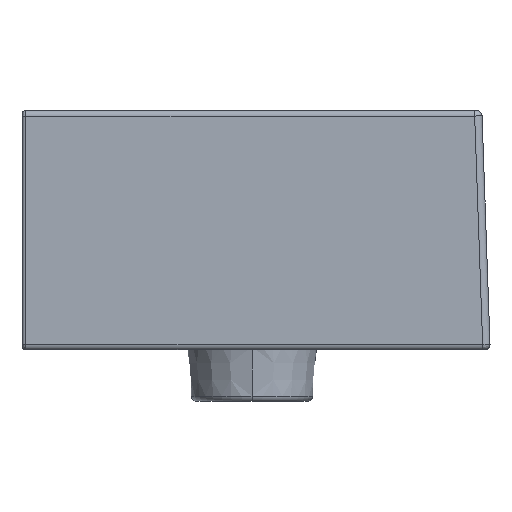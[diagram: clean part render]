
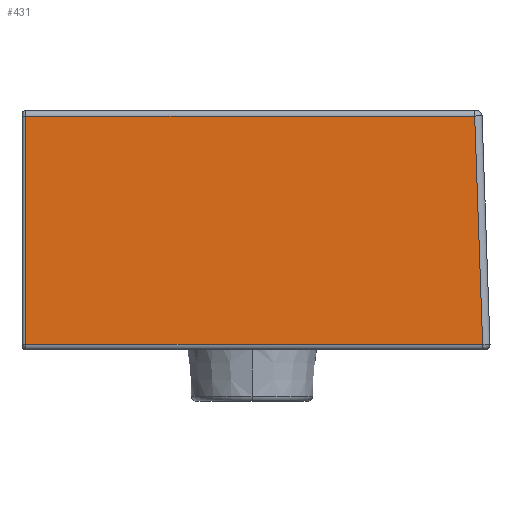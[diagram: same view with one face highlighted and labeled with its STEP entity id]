
A CAD part, left-side view. The second image highlights one B-rep face of the part: STEP entity #431.
In plain terms, the highlighted planar face has unit normal (-1, 0, 0.018).
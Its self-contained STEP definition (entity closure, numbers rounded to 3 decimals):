
#431=ADVANCED_FACE('',(#777),#727,.T.);
#727=PLANE('',#5154);
#777=FACE_OUTER_BOUND('',#1109,.T.);
#1109=EDGE_LOOP('',(#2437,#2438,#2439,#2440));
#2437=ORIENTED_EDGE('',*,*,#4418,.T.);
#2438=ORIENTED_EDGE('',*,*,#4419,.T.);
#2439=ORIENTED_EDGE('',*,*,#4420,.T.);
#2440=ORIENTED_EDGE('',*,*,#4421,.T.);
#3904=VERTEX_POINT('',#11568);
#3905=VERTEX_POINT('',#11569);
#3906=VERTEX_POINT('',#11571);
#3907=VERTEX_POINT('',#11573);
#4418=EDGE_CURVE('',#3904,#3905,#4966,.T.);
#4419=EDGE_CURVE('',#3905,#3906,#4967,.T.);
#4420=EDGE_CURVE('',#3906,#3907,#4968,.T.);
#4421=EDGE_CURVE('',#3907,#3904,#4969,.T.);
#4966=LINE('',#11567,#5059);
#4967=LINE('',#11570,#5060);
#4968=LINE('',#11572,#5061);
#4969=LINE('',#11574,#5062);
#5059=VECTOR('',#5496,1.);
#5060=VECTOR('',#5497,1.);
#5061=VECTOR('',#5498,1.);
#5062=VECTOR('',#5499,1.);
#5154=AXIS2_PLACEMENT_3D('',#11575,#5500,#5501);
#5496=DIRECTION('',(0.,1.,0.));
#5497=DIRECTION('',(-0.017,0.,-1.));
#5498=DIRECTION('',(0.,-1.,0.));
#5499=DIRECTION('',(0.017,0.035,0.999));
#5500=DIRECTION('',(-1.,0.,0.017));
#5501=DIRECTION('',(0.017,0.,1.));
#11567=CARTESIAN_POINT('',(-159.713,-62.5,-2.948));
#11568=CARTESIAN_POINT('',(-159.713,-245.991,-2.948));
#11569=CARTESIAN_POINT('',(-159.713,-2.,-2.948));
#11570=CARTESIAN_POINT('',(-159.715,-2.,-3.052));
#11571=CARTESIAN_POINT('',(-161.878,-2.,-126.948));
#11572=CARTESIAN_POINT('',(-161.878,-250.428,-126.948));
#11573=CARTESIAN_POINT('',(-161.878,-250.321,-126.948));
#11574=CARTESIAN_POINT('',(-159.603,-245.771,3.346));
#11575=CARTESIAN_POINT('',(-159.715,-62.5,-3.052));
